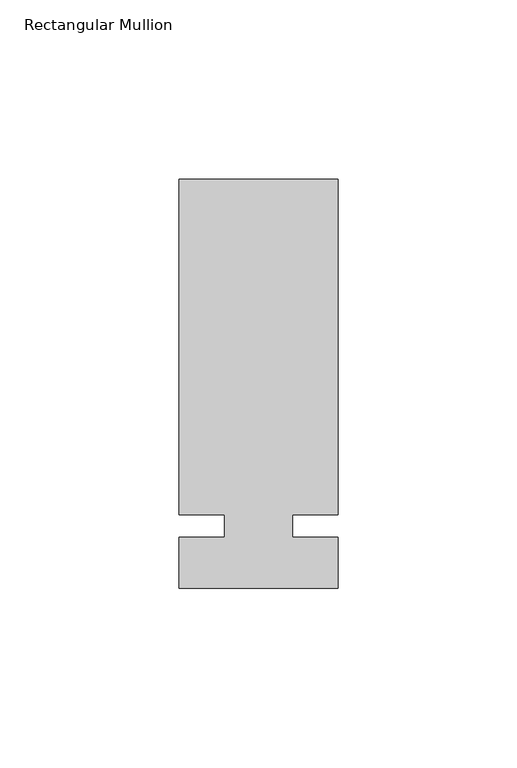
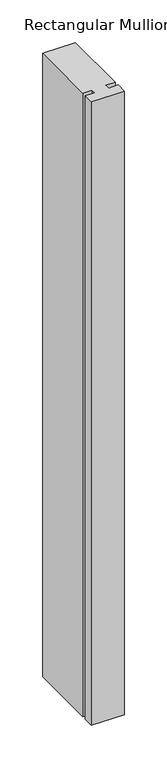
"""IFC4 building model written with IfcOpenShell, lengths in millimetres: member geometry, Rectangular Mullion : Kawneer-TRIFAB_VG_450_BACK_SB_Horizontal."""

from ifc_helpers import new_model, si_unit, frame, origin, place, context, project, spatial, polyline, outline, extrude, source, transform, mapped, element, save


def rectangular_mullion_478801f2(model_context):
    return source(origin(), model_context, "Body", "SweptSolid", [
        extrude(outline(polyline([(26.5594027, -17.4625), (-17.8905973, -17.4625), (-17.8905973, -3.2050658), (-5.1905973, -3.2050658), (-5.1905973, 3.1449342), (-17.8905973, 3.1449342), (-17.8905973, 96.8375), (26.5594027, 96.8375), (26.5594027, 3.1449342), (13.8576322, 3.1449342), (13.8576322, -3.2050658), (26.5594027, -3.2050658), (26.5594027, -17.4625)])), frame((0.0, 0.0, -892.9844133), z_axis=(0.0, 0.0, 1.0), x_axis=(1.0, 0.0, 0.0)), (0.0, 0.0, 1.0), 892.9844133),
    ])


if __name__ == "__main__":
    model = new_model("IFC4")
    model_context = context("Model", 3, world=origin())
    ifc_project = project(units=[si_unit("LENGTHUNIT", "METRE", prefix="MILLI")], contexts=[model_context])
    site = spatial("IfcSite", under=ifc_project)
    building = spatial("IfcBuilding", under=site)
    placement = place(None, origin())
    rectangular_mullion_shape = rectangular_mullion_478801f2(model_context)
    element("IfcMember", 1, ObjectType="Rectangular Mullion : Kawneer-TRIFAB_VG_450_BACK_SB_Horizontal", at=placement, inside=building, context=model_context, shape_type="MappedRepresentation", body=[
        mapped(rectangular_mullion_shape, transform((0.0, 0.0, 0.0), x_axis=(1.0, 0.0, 0.0), y_axis=(0.0, 1.0, 0.0), z_axis=(0.0, 0.0, 1.0))),
    ])
    save(model, "model.ifc")
